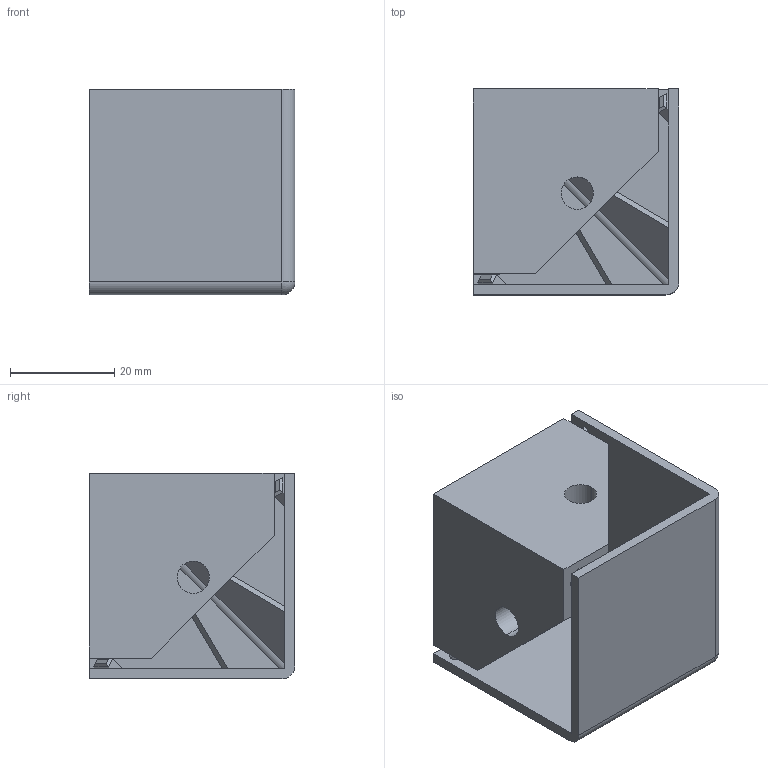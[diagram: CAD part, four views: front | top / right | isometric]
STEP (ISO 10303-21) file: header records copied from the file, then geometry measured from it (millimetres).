
FILE_DESCRIPTION (( 'STEP AP203' ), '1' );
FILE_NAME ('084.310.025.STEP', '2015-05-29T13:11:49', ( '' ), ( '' ), 'SwSTEP 2.0', 'SolidWorks 2012', '' );
FILE_SCHEMA (( 'CONFIG_CONTROL_DESIGN' ));
Length unit declared in the file: millimetre
Products named in the file (3): 084.310.025A; 084.310.025B; 084.310.025
Assembly tree (2 placements, depth 2):
  084.310.025
    084.310.025A
    084.310.025B
Bounding box: 39.5 x 39.5 x 39.5 mm (x, y, z)
Volume: 21674.2 mm3; surface area: 16519.7 mm2
Topology: 2 solids, 2 shells, 70 faces, 175 edges, 111 vertices
Faces by surface type: plane 58, cylinder 11, sphere 1
Entity records: 2355 total; most frequent: CARTESIAN_POINT 393, ORIENTED_EDGE 348, DIRECTION 333, EDGE_CURVE 174, VECTOR 143, LINE 143, VERTEX_POINT 111, AXIS2_PLACEMENT_3D 95
